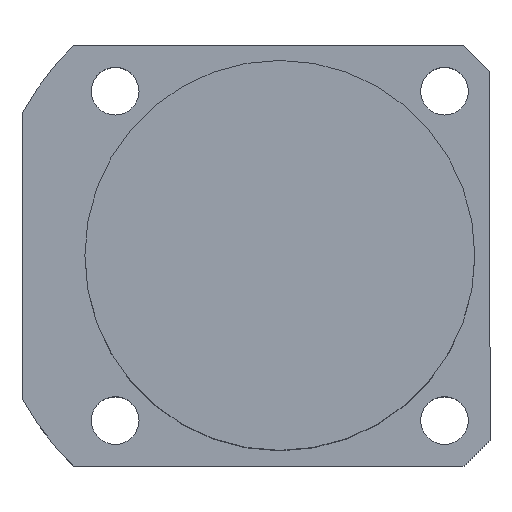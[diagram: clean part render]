
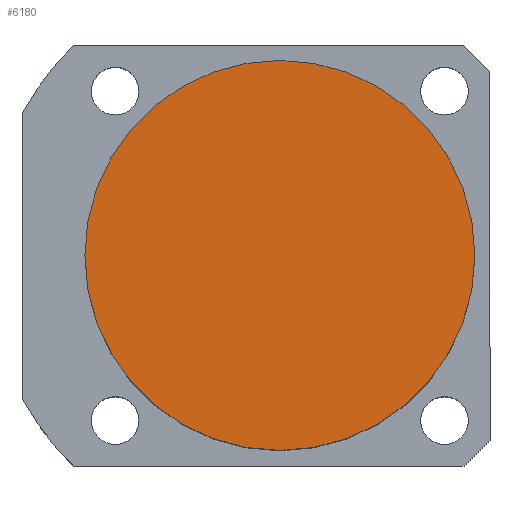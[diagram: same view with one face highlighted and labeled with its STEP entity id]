
A CAD part, top view. The second image highlights one B-rep face of the part: STEP entity #6180.
In plain terms, the highlighted planar face has unit normal (0, 0, 1).
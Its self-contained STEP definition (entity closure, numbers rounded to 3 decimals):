
#365 = CIRCLE ( 'NONE', #1402, 45. ) ;
#530 = FACE_OUTER_BOUND ( 'NONE', #1478, .T. ) ;
#1041 = VERTEX_POINT ( 'NONE', #5834 ) ;
#1066 = AXIS2_PLACEMENT_3D ( 'NONE', #5364, #5908, #2676 ) ;
#1402 = AXIS2_PLACEMENT_3D ( 'NONE', #6119, #2865, #6663 ) ;
#1478 = EDGE_LOOP ( 'NONE', ( #5713, #6424 ) ) ;
#1558 = PLANE ( 'NONE',  #1066 ) ;
#2676 = DIRECTION ( 'NONE',  ( 1., 0., 0. ) ) ;
#2865 = DIRECTION ( 'NONE',  ( 0., 0., 1. ) ) ;
#3069 = DIRECTION ( 'NONE',  ( 0., 0., 1. ) ) ;
#3169 = EDGE_CURVE ( 'NONE', #1041, #6643, #5193, .T. ) ;
#3425 = AXIS2_PLACEMENT_3D ( 'NONE', #6333, #3069, #6882 ) ;
#5193 = CIRCLE ( 'NONE', #3425, 45. ) ;
#5311 = CARTESIAN_POINT ( 'NONE',  ( -45., 0., 74.5 ) ) ;
#5364 = CARTESIAN_POINT ( 'NONE',  ( 0., 0., 74.5 ) ) ;
#5713 = ORIENTED_EDGE ( 'NONE', *, *, #6954, .T. ) ;
#5834 = CARTESIAN_POINT ( 'NONE',  ( 45., 0., 74.5 ) ) ;
#5908 = DIRECTION ( 'NONE',  ( 0., 0., 1. ) ) ;
#6119 = CARTESIAN_POINT ( 'NONE',  ( 0., 0., 74.5 ) ) ;
#6180 = ADVANCED_FACE ( 'NONE', ( #530 ), #1558, .T. ) ;
#6333 = CARTESIAN_POINT ( 'NONE',  ( 0., 0., 74.5 ) ) ;
#6424 = ORIENTED_EDGE ( 'NONE', *, *, #3169, .T. ) ;
#6643 = VERTEX_POINT ( 'NONE', #5311 ) ;
#6663 = DIRECTION ( 'NONE',  ( 1., 0., 0. ) ) ;
#6882 = DIRECTION ( 'NONE',  ( 1., 0., 0. ) ) ;
#6954 = EDGE_CURVE ( 'NONE', #6643, #1041, #365, .T. ) ;
